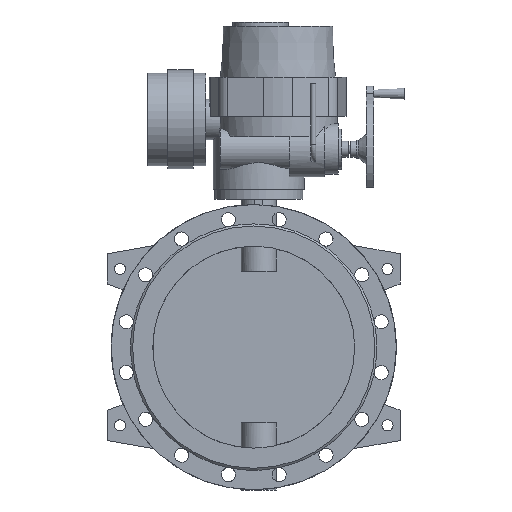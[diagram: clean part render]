
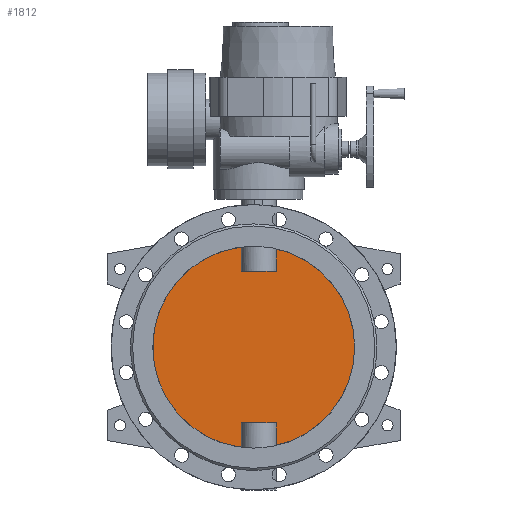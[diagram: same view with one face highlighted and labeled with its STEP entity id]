
A CAD part, front view. The second image highlights one B-rep face of the part: STEP entity #1812.
In plain terms, the highlighted planar face has unit normal (0, -1, 0).
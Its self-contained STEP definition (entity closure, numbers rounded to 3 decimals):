
#1812=ADVANCED_FACE('',(#3846),#3848,.F.);
#3846=FACE_BOUND('',#3847,.T.);
#3847=EDGE_LOOP('',(#5313,#5314,#5315,#5316,#5317,#5318,#5319,#5320));
#3848=PLANE('',#3849);
#3849=AXIS2_PLACEMENT_3D('',#3850,#3851,#3852);
#3850=CARTESIAN_POINT('',(0.,-5.,0.));
#3851=DIRECTION('',(0.,1.,0.));
#3852=DIRECTION('',(1.,0.,0.));
#5313=ORIENTED_EDGE('',*,*,#6030,.T.);
#5314=ORIENTED_EDGE('',*,*,#6039,.T.);
#5315=ORIENTED_EDGE('',*,*,#6040,.T.);
#5316=ORIENTED_EDGE('',*,*,#6041,.T.);
#5317=ORIENTED_EDGE('',*,*,#6032,.T.);
#5318=ORIENTED_EDGE('',*,*,#6042,.T.);
#5319=ORIENTED_EDGE('',*,*,#6043,.T.);
#5320=ORIENTED_EDGE('',*,*,#6044,.T.);
#6030=EDGE_CURVE('',#7075,#7076,#7077,.F.);
#6032=EDGE_CURVE('',#7080,#7078,#7081,.F.);
#6039=EDGE_CURVE('',#7076,#7093,#7094,.T.);
#6040=EDGE_CURVE('',#7093,#7095,#7096,.F.);
#6041=EDGE_CURVE('',#7095,#7080,#7097,.F.);
#6042=EDGE_CURVE('',#7078,#7098,#7099,.F.);
#6043=EDGE_CURVE('',#7098,#7100,#7101,.F.);
#6044=EDGE_CURVE('',#7100,#7075,#7102,.T.);
#7075=VERTEX_POINT('',#12167);
#7076=VERTEX_POINT('',#12168);
#7077=CIRCLE('',#12169,200.);
#7078=VERTEX_POINT('',#12173);
#7080=VERTEX_POINT('',#12236);
#7081=CIRCLE('',#12237,200.);
#7093=VERTEX_POINT('',#12379);
#7094=LINE('',#12380,#12381);
#7095=VERTEX_POINT('',#12383);
#7096=LINE('',#12384,#12385);
#7097=LINE('',#12387,#12388);
#7098=VERTEX_POINT('',#12390);
#7099=LINE('',#12391,#12392);
#7100=VERTEX_POINT('',#12394);
#7101=LINE('',#12395,#12396);
#7102=LINE('',#12398,#12399);
#12167=CARTESIAN_POINT('',(44.641,-5.,-194.954));
#12168=CARTESIAN_POINT('',(44.641,-5.,194.954));
#12169=AXIS2_PLACEMENT_3D('',#12170,#12171,#12172);
#12170=CARTESIAN_POINT('',(0.,-5.,0.));
#12171=DIRECTION('',(0.,1.,0.));
#12172=DIRECTION('',(0.223,0.,0.975));
#12173=CARTESIAN_POINT('',(-24.641,-5.,-198.476));
#12236=CARTESIAN_POINT('',(-24.641,-5.,198.476));
#12237=AXIS2_PLACEMENT_3D('',#12238,#12239,#12240);
#12238=CARTESIAN_POINT('',(0.,-5.,0.));
#12239=DIRECTION('',(0.,1.,0.));
#12240=DIRECTION('',(-0.123,0.,-0.992));
#12379=CARTESIAN_POINT('',(44.641,-5.,150.));
#12380=CARTESIAN_POINT('',(44.641,-5.,194.954));
#12381=VECTOR('',#12382,1.);
#12382=DIRECTION('',(0.,0.,-1.));
#12383=CARTESIAN_POINT('',(-24.641,-5.,150.));
#12384=CARTESIAN_POINT('',(-24.641,-5.,150.));
#12385=VECTOR('',#12386,1.);
#12386=DIRECTION('',(1.,0.,0.));
#12387=CARTESIAN_POINT('',(-24.641,-5.,198.476));
#12388=VECTOR('',#12389,1.);
#12389=DIRECTION('',(0.,0.,-1.));
#12390=CARTESIAN_POINT('',(-24.641,-5.,-150.));
#12391=CARTESIAN_POINT('',(-24.641,-5.,-150.));
#12392=VECTOR('',#12393,1.);
#12393=DIRECTION('',(0.,0.,-1.));
#12394=CARTESIAN_POINT('',(44.641,-5.,-150.));
#12395=CARTESIAN_POINT('',(44.641,-5.,-150.));
#12396=VECTOR('',#12397,1.);
#12397=DIRECTION('',(-1.,0.,0.));
#12398=CARTESIAN_POINT('',(44.641,-5.,-150.));
#12399=VECTOR('',#12400,1.);
#12400=DIRECTION('',(0.,0.,-1.));
